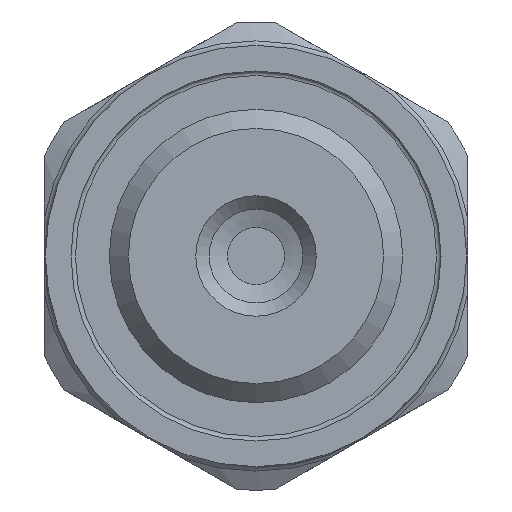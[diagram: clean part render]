
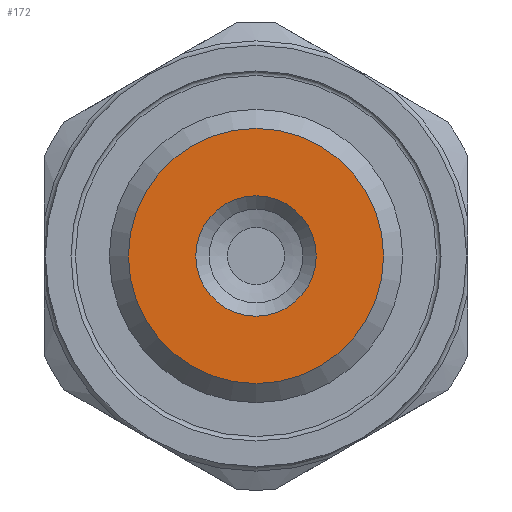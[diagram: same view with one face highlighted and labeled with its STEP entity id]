
A CAD part, front view. The second image highlights one B-rep face of the part: STEP entity #172.
In plain terms, the highlighted planar face has unit normal (0, -1, 0).
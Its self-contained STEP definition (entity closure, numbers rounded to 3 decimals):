
#172 = ADVANCED_FACE( '', ( #386, #387 ), #388, .F. );
#386 = FACE_BOUND( '', #633, .T. );
#387 = FACE_OUTER_BOUND( '', #634, .T. );
#388 = PLANE( '', #635 );
#633 = EDGE_LOOP( '', ( #1024 ) );
#634 = EDGE_LOOP( '', ( #1025 ) );
#635 = AXIS2_PLACEMENT_3D( '', #1026, #1027, #1028 );
#1024 = ORIENTED_EDGE( '', *, *, #1336, .F. );
#1025 = ORIENTED_EDGE( '', *, *, #1337, .T. );
#1026 = CARTESIAN_POINT( '', ( 5.723, 0., 0. ) );
#1027 = DIRECTION( '', ( 0., 1., 0. ) );
#1028 = DIRECTION( '', ( -1., 0., 0. ) );
#1336 = EDGE_CURVE( '', #1584, #1584, #1585, .T. );
#1337 = EDGE_CURVE( '', #1586, #1586, #1587, .T. );
#1584 = VERTEX_POINT( '', #1982 );
#1585 = CIRCLE( '', #1983, 2.7 );
#1586 = VERTEX_POINT( '', #1984 );
#1587 = CIRCLE( '', #1985, 5.722 );
#1982 = CARTESIAN_POINT( '', ( 2.7, 0., 0. ) );
#1983 = AXIS2_PLACEMENT_3D( '', #2243, #2244, #2245 );
#1984 = CARTESIAN_POINT( '', ( 5.723, 0., 0. ) );
#1985 = AXIS2_PLACEMENT_3D( '', #2246, #2247, #2248 );
#2243 = CARTESIAN_POINT( '', ( 0., 0., 0. ) );
#2244 = DIRECTION( '', ( 0., -1., 0. ) );
#2245 = DIRECTION( '', ( 1., 0., 0. ) );
#2246 = CARTESIAN_POINT( '', ( 0., 0., 0. ) );
#2247 = DIRECTION( '', ( 0., -1., 0. ) );
#2248 = DIRECTION( '', ( 1., 0., 0. ) );
